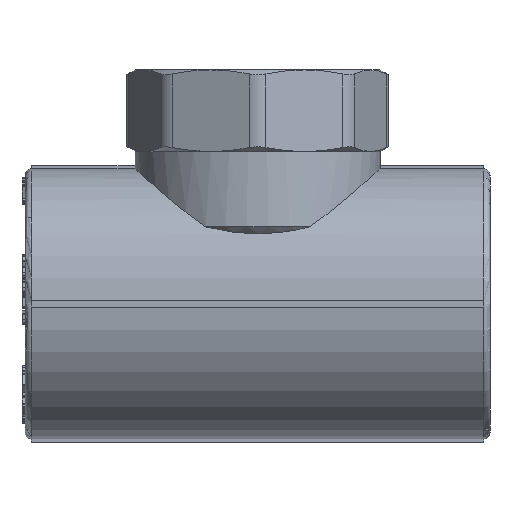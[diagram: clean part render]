
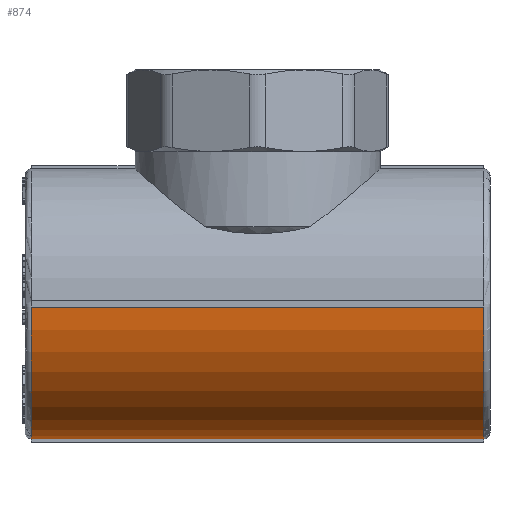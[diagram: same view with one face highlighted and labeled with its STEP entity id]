
A CAD part, left-side view. The second image highlights one B-rep face of the part: STEP entity #874.
In plain terms, the highlighted cylindrical face has radius 21.5 mm (diameter 43 mm), a partial arc.
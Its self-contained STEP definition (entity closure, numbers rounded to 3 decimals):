
#874=ADVANCED_FACE('',(#5351),#5353,.T.);
#5351=FACE_BOUND('',#5352,.T.);
#5352=EDGE_LOOP('',(#11844,#11845,#11846,#11847));
#5353=CYLINDRICAL_SURFACE('',#5354,21.5);
#5354=AXIS2_PLACEMENT_3D('',#5355,#5356,#5357);
#5355=CARTESIAN_POINT('',(0.,-37.,0.));
#5356=DIRECTION('',(0.,1.,0.));
#5357=DIRECTION('',(-1.,0.,0.));
#11844=ORIENTED_EDGE('',*,*,#15699,.F.);
#11845=ORIENTED_EDGE('',*,*,#14616,.T.);
#11846=ORIENTED_EDGE('',*,*,#15700,.F.);
#11847=ORIENTED_EDGE('',*,*,#14626,.F.);
#14616=EDGE_CURVE('',#17840,#17838,#17841,.T.);
#14626=EDGE_CURVE('',#17856,#17858,#17859,.T.);
#15699=EDGE_CURVE('',#17840,#17856,#19491,.T.);
#15700=EDGE_CURVE('',#17858,#17838,#19492,.F.);
#17838=VERTEX_POINT('',#26474);
#17840=VERTEX_POINT('',#26479);
#17841=CIRCLE('',#26480,21.5);
#17856=VERTEX_POINT('',#26519);
#17858=VERTEX_POINT('',#26524);
#17859=CIRCLE('',#26525,21.5);
#19491=LINE('',#31058,#31059);
#19492=LINE('',#31061,#31062);
#26474=CARTESIAN_POINT('',(-21.494,-36.,-0.5));
#26479=CARTESIAN_POINT('',(-0.5,-36.,-21.494));
#26480=AXIS2_PLACEMENT_3D('',#26481,#26482,#26483);
#26481=CARTESIAN_POINT('',(0.,-36.,0.));
#26482=DIRECTION('',(0.,1.,0.));
#26483=DIRECTION('',(-0.023,0.,-1.));
#26519=CARTESIAN_POINT('',(-0.5,36.,-21.494));
#26524=CARTESIAN_POINT('',(-21.494,36.,-0.5));
#26525=AXIS2_PLACEMENT_3D('',#26526,#26527,#26528);
#26526=CARTESIAN_POINT('',(0.,36.,0.));
#26527=DIRECTION('',(0.,1.,0.));
#26528=DIRECTION('',(-0.023,0.,-1.));
#31058=CARTESIAN_POINT('',(-0.5,-36.,-21.494));
#31059=VECTOR('',#31060,1.);
#31060=DIRECTION('',(0.,1.,0.));
#31061=CARTESIAN_POINT('',(-21.494,-36.,-0.5));
#31062=VECTOR('',#31063,1.);
#31063=DIRECTION('',(0.,1.,0.));
